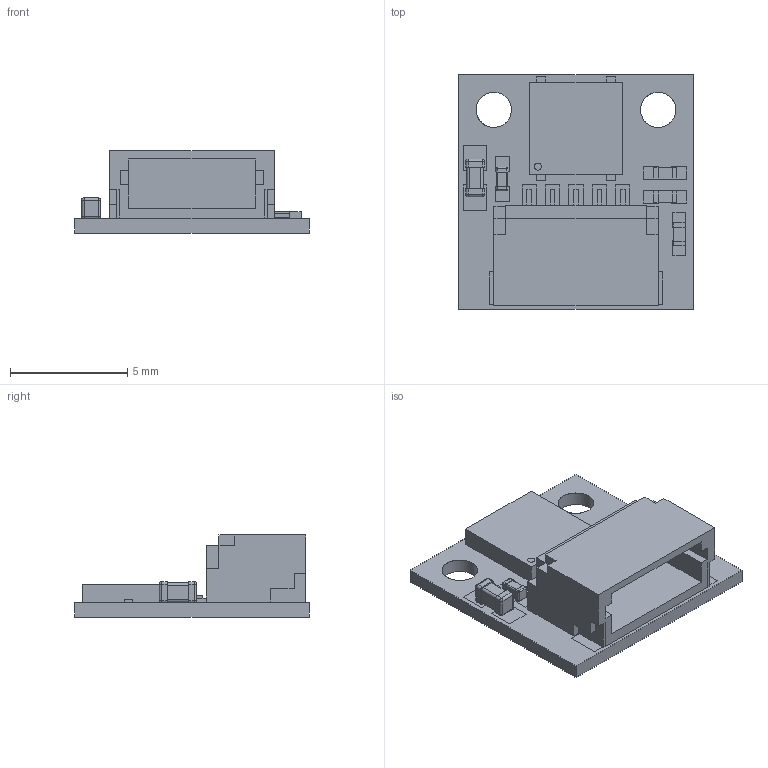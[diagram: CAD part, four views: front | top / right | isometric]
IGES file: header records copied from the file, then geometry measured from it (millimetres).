
Global section: file name: Filename.iges; native system: Open CASCADE 7.4; preprocessor: Open CASCADE IGES processor 7.4; date: 20200727.143137; units: millimetre
Bounding box: 10 x 10 x 3.5 mm (x, y, z)
Surface area: 742.2 mm2 (no closed solid volume)
Topology: 0 solids, 0 shells, 605 faces, 3136 edges, 4448 vertices
Faces by surface type: plane 509, revolution 96
